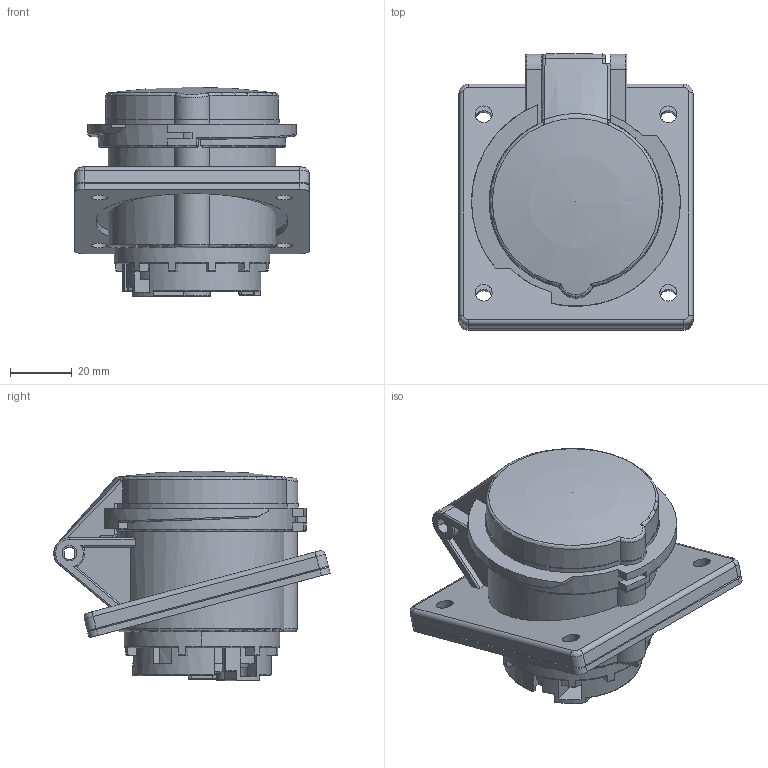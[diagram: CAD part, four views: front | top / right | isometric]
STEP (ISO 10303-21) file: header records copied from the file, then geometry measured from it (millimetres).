
FILE_DESCRIPTION(('FreeCAD Model'),'2;1');
FILE_NAME('Open CASCADE Shape Model','2026-02-04T10:46:10',(''),(''), 'Open CASCADE STEP processor 7.8','FreeCAD','Unknown');
FILE_SCHEMA(('AUTOMOTIVE_DESIGN { 1 0 10303 214 1 1 1 1 }'));
Length unit declared in the file: millimetre
Products named in the file (5): TL3I16443; Tampa; Terminais; Tomada; Base interna
Assembly tree (4 placements, depth 2):
  TL3I16443
    Tampa
    Terminais
    Tomada
    Base interna
Bounding box: 76 x 89.77 x 68.1 mm (x, y, z)
Volume: 189766.4 mm3; surface area: 52426 mm2
Topology: 4 solids, 17 shells, 840 faces, 2296 edges, 1520 vertices
Faces by surface type: plane 502, cylinder 204, torus 55, bspline 41, cone 24, sphere 14
Full cylindrical faces by diameter (mm): 7.5 x1
Entity records: 30530 total; most frequent: CARTESIAN_POINT 9033, ORIENTED_EDGE 4590, DIRECTION 4318, EDGE_CURVE 2295, VERTEX_POINT 1520, AXIS2_PLACEMENT_3D 1442, LINE 1434, VECTOR 1434
